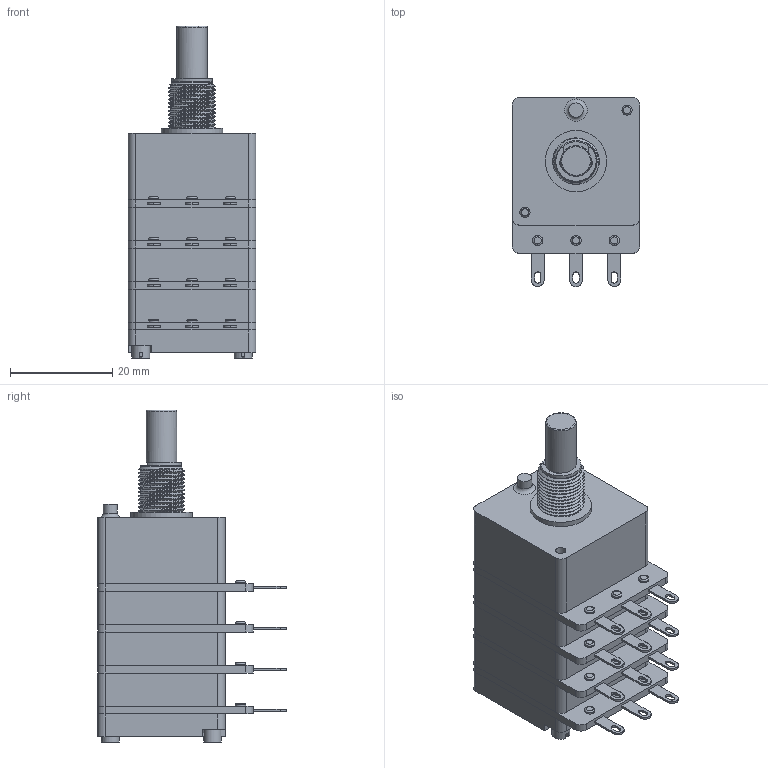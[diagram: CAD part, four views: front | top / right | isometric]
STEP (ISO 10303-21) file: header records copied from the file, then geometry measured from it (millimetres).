
FILE_DESCRIPTION(('FreeCAD Model'),'2;1');
FILE_NAME('Open CASCADE Shape Model','2023-03-21T15:02:39',(''),(''), 'Open CASCADE STEP processor 7.6','FreeCAD','Unknown');
FILE_SCHEMA(('AUTOMOTIVE_DESIGN { 1 0 10303 214 1 1 1 1 }'));
Length unit declared in the file: millimetre
Products named in the file (1): Fusion025
Bounding box: 25 x 37 x 65 mm (x, y, z)
Volume: 28430.1 mm3; surface area: 9033.4 mm2
Topology: 1 solids, 21 shells, 469 faces, 1026 edges, 639 vertices
Faces by surface type: plane 230, cylinder 181, bspline 38, torus 14, cone 6
Full cylindrical faces by diameter (mm): 1.9 x8, 2 x30, 2.2 x14, 2.8 x1, 3.5 x2, 4.5 x4, 5.4 x1, 6 x1, 6.05 x1, 8 x1, 9.09 x11, 12 x1
Entity records: 35976 total; most frequent: CARTESIAN_POINT 14371, DIRECTION 3631, ORIENTED_EDGE 2050, PCURVE 2050, DEFINITIONAL_REPRESENTATION 2050, LINE 1810, VECTOR 1810, EDGE_CURVE 1025
